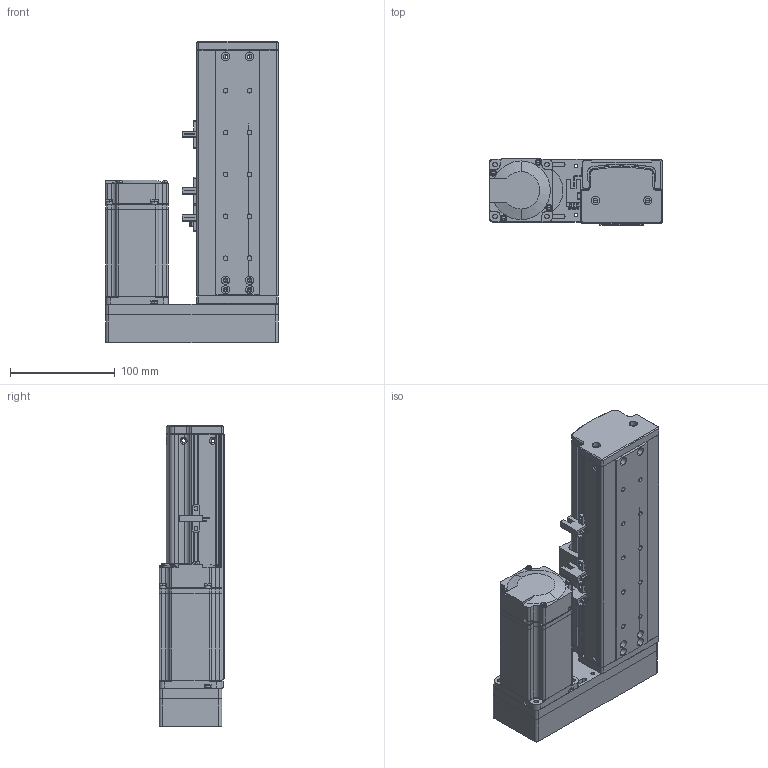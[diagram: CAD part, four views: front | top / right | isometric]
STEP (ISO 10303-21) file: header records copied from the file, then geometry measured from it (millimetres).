
FILE_DESCRIPTION (( 'STEP AP214' ), '1' );
FILE_NAME ('KSD75S-S80-MR-CM.STEP', '2019-10-18T07:11:25', ( '微软用户' ), ( '微软中国' ), 'SwSTEP 2.0', 'SolidWorks 2014', '' );
FILE_SCHEMA (( 'AUTOMOTIVE_DESIGN' ));
Length unit declared in the file: millimetre
Products named in the file (13): 覜茼え100遵圉猾敕; U倰嫖萇EEㄜSX672; 綴傷啣 ; ヶ傷啣; 75裔啣-80俴最; 75遵耀郪耜啣-80俴最; 75遵賑雄釱; MGW15H賑寢80俴最 ; MGW15H賑寢80俴最; KSD75S-S80-MR-CM; MHMD042G1CA_2_03; 75宽模组保护罩左右折; 75宽马达安装板连板左右折丝杆
Assembly tree (15 placements, depth 3):
  KSD75S-S80-MR-CM
    MGW15H賑寢80俴最 
      MGW15H賑寢80俴最
    75遵賑雄釱
    75遵耀郪耜啣-80俴最  x2
    75裔啣-80俴最
    ヶ傷啣
    綴傷啣 
    U倰嫖萇EEㄜSX672  x3
    覜茼え100遵圉猾敕
    75宽马达安装板连板左右折丝杆
    75宽模组保护罩左右折
    MHMD042G1CA_2_03
Bounding box: 165 x 63 x 287.5 mm (x, y, z)
Volume: 538574.4 mm3; surface area: 336315.7 mm2
Topology: 13 solids, 14 shells, 1383 faces, 3946 edges, 2573 vertices
Faces by surface type: cylinder 627, plane 609, cone 129, bspline 18
Entity records: 44454 total; most frequent: CARTESIAN_POINT 8518, DIRECTION 6524, ORIENTED_EDGE 6172, EDGE_CURVE 3157, AXIS2_PLACEMENT_3D 2358, VERTEX_POINT 2091, LINE 1808, VECTOR 1808
